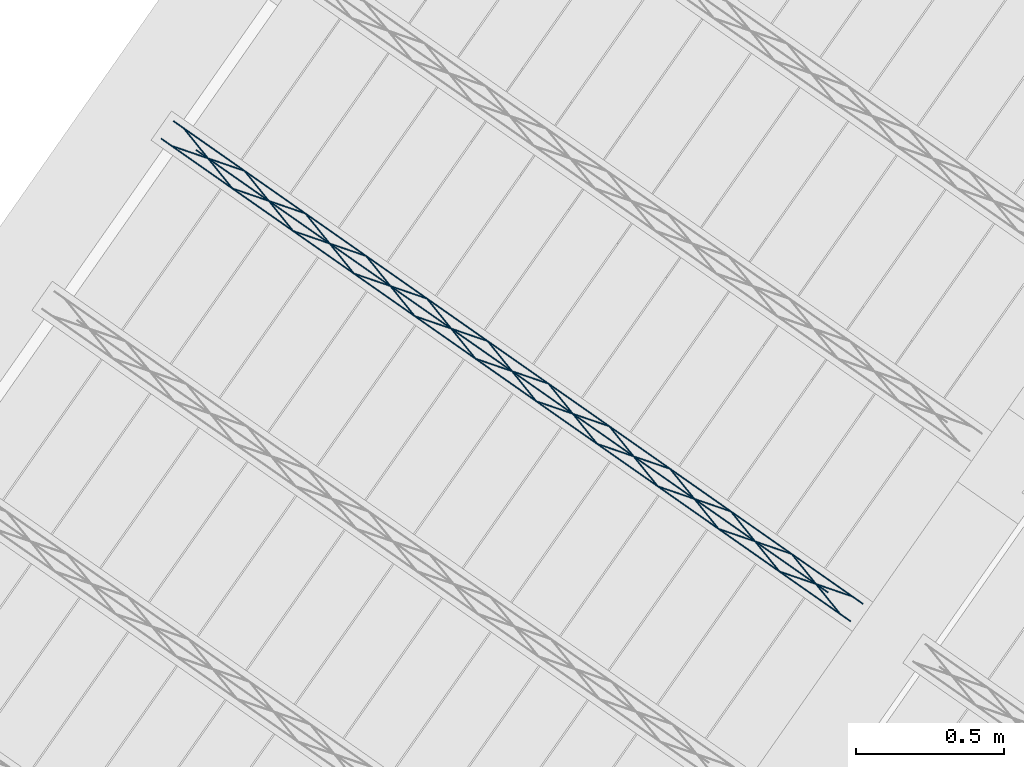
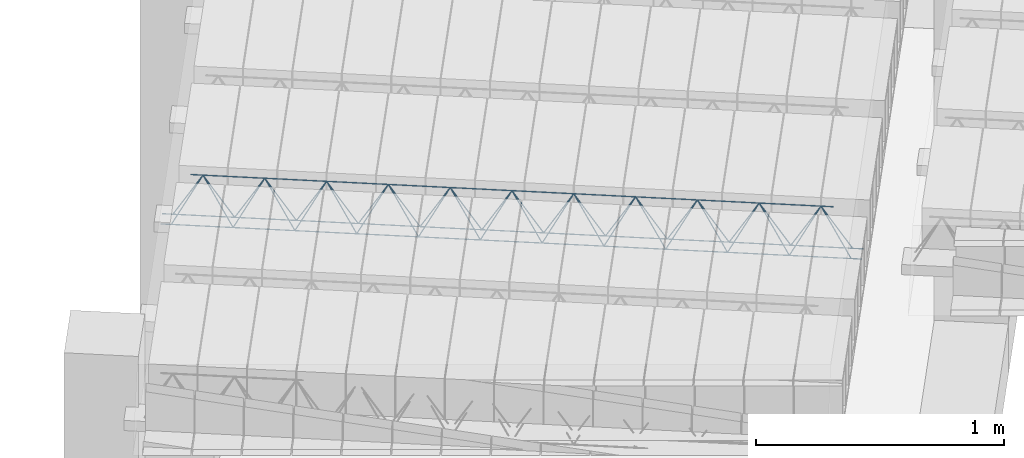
# One storey, part 20 of 80: 1 member.
"""IFC2X3 building model written with IfcOpenShell, lengths in metres."""

from ifc_helpers import new_model, entity, si_unit, converted_unit, derived_unit, direction, frame, origin, origin_2d_with_axis, place, context, subcontext, project, spatial, circle, extrude, type_object, element, save


model = new_model("IFC2X3")

# Units and contexts
model_context = context("Model", 3, precision=1e-05, world=origin(), true_north=direction((6.123031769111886e-17, 1.0)))
body_context = subcontext(model_context, "Body", "Model", "MODEL_VIEW")
ifc_project = project(units=[si_unit("LENGTHUNIT", "METRE"), si_unit("AREAUNIT", "SQUARE_METRE"), si_unit("VOLUMEUNIT", "CUBIC_METRE"), converted_unit("PLANEANGLEUNIT", "DEGREE", entity("IfcPlaneAngleMeasure", 0.017453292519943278), si_unit("PLANEANGLEUNIT", "RADIAN"), dimensions=[0, 0, 0, 0, 0, 0, 0]), si_unit("MASSUNIT", "GRAM", prefix="KILO"), derived_unit("MASSDENSITYUNIT", [(si_unit("MASSUNIT", "GRAM", prefix="KILO"), 1), (si_unit("LENGTHUNIT", "METRE"), -3)]), derived_unit("IONCONCENTRATIONUNIT", [(si_unit("MASSUNIT", "GRAM", prefix="KILO"), 1), (si_unit("LENGTHUNIT", "METRE"), -3)]), derived_unit("MOMENTOFINERTIAUNIT", [(si_unit("LENGTHUNIT", "METRE"), 4)]), si_unit("TIMEUNIT", "SECOND"), si_unit("FREQUENCYUNIT", "HERTZ"), si_unit("THERMODYNAMICTEMPERATUREUNIT", "DEGREE_CELSIUS"), derived_unit("THERMALTRANSMITTANCEUNIT", [(si_unit("MASSUNIT", "GRAM", prefix="KILO"), 1), (si_unit("THERMODYNAMICTEMPERATUREUNIT", "KELVIN"), -1), (si_unit("TIMEUNIT", "SECOND"), -3)]), derived_unit("THERMALCONDUCTANCEUNIT", [(si_unit("MASSUNIT", "GRAM", prefix="KILO"), 1), (si_unit("THERMODYNAMICTEMPERATUREUNIT", "KELVIN"), -1), (si_unit("TIMEUNIT", "SECOND"), -3), (si_unit("LENGTHUNIT", "METRE"), 1)]), derived_unit("VOLUMETRICFLOWRATEUNIT", [(si_unit("LENGTHUNIT", "METRE", prefix="DECI"), 3), (si_unit("TIMEUNIT", "SECOND"), -1)]), derived_unit("MASSFLOWRATEUNIT", [(si_unit("MASSUNIT", "GRAM", prefix="KILO"), 1), (si_unit("TIMEUNIT", "SECOND"), -1)]), derived_unit("ROTATIONALFREQUENCYUNIT", [(si_unit("TIMEUNIT", "SECOND"), -1)]), si_unit("ELECTRICCURRENTUNIT", "AMPERE"), si_unit("ELECTRICVOLTAGEUNIT", "VOLT"), si_unit("POWERUNIT", "WATT"), si_unit("FORCEUNIT", "NEWTON", prefix="KILO"), si_unit("ILLUMINANCEUNIT", "LUX"), si_unit("LUMINOUSFLUXUNIT", "LUMEN"), si_unit("LUMINOUSINTENSITYUNIT", "CANDELA"), si_unit("ENERGYUNIT", "JOULE"), derived_unit("USERDEFINED", [(si_unit("MASSUNIT", "GRAM", prefix="KILO"), -1), (si_unit("LENGTHUNIT", "METRE"), -2), (si_unit("TIMEUNIT", "SECOND"), 3), (si_unit("LUMINOUSFLUXUNIT", "LUMEN"), 1)]), derived_unit("USERDEFINED", [(si_unit("MASSUNIT", "GRAM", prefix="KILO"), 1), (si_unit("TIMEUNIT", "SECOND"), -3), (si_unit("LENGTHUNIT", "METRE"), 3), (si_unit("ELECTRICCURRENTUNIT", "AMPERE"), -2)]), derived_unit("SOUNDPOWERUNIT", [(si_unit("MASSUNIT", "GRAM", prefix="KILO"), 1), (si_unit("TIMEUNIT", "SECOND"), -3), (si_unit("LENGTHUNIT", "METRE"), 2)]), derived_unit("SOUNDPRESSUREUNIT", [(si_unit("MASSUNIT", "GRAM", prefix="KILO"), 1), (si_unit("LENGTHUNIT", "METRE"), -1), (si_unit("TIMEUNIT", "SECOND"), -2)]), derived_unit("LINEARVELOCITYUNIT", [(si_unit("LENGTHUNIT", "METRE"), 1), (si_unit("TIMEUNIT", "SECOND"), -1)]), si_unit("PRESSUREUNIT", "PASCAL"), derived_unit("USERDEFINED", [(si_unit("MASSUNIT", "GRAM", prefix="KILO"), 1), (si_unit("LENGTHUNIT", "METRE"), -2), (si_unit("TIMEUNIT", "SECOND"), -2)]), derived_unit("LINEARFORCEUNIT", [(si_unit("MASSUNIT", "GRAM", prefix="KILO"), 1), (si_unit("TIMEUNIT", "SECOND"), -2)]), derived_unit("PLANARFORCEUNIT", [(si_unit("MASSUNIT", "GRAM", prefix="KILO"), 1), (si_unit("LENGTHUNIT", "METRE"), -1), (si_unit("TIMEUNIT", "SECOND"), -2)]), derived_unit("SPECIFICHEATCAPACITYUNIT", [(si_unit("THERMODYNAMICTEMPERATUREUNIT", "KELVIN"), -1), (si_unit("LENGTHUNIT", "METRE"), 2), (si_unit("TIMEUNIT", "SECOND"), -2)]), derived_unit("HEATFLUXDENSITYUNIT", [(si_unit("MASSUNIT", "GRAM", prefix="KILO"), 1), (si_unit("TIMEUNIT", "SECOND"), -3)]), derived_unit("HEATINGVALUEUNIT", [(si_unit("LENGTHUNIT", "METRE"), 2), (si_unit("TIMEUNIT", "SECOND"), -2)]), derived_unit("VAPORPERMEABILITYUNIT", [(si_unit("LENGTHUNIT", "METRE"), -1), (si_unit("TIMEUNIT", "SECOND"), 1)]), derived_unit("DYNAMICVISCOSITYUNIT", [(si_unit("MASSUNIT", "GRAM", prefix="KILO"), 1), (si_unit("TIMEUNIT", "SECOND"), -1), (si_unit("LENGTHUNIT", "METRE"), -1)]), derived_unit("THERMALEXPANSIONCOEFFICIENTUNIT", [(si_unit("THERMODYNAMICTEMPERATUREUNIT", "KELVIN"), -1)]), derived_unit("MODULUSOFELASTICITYUNIT", [(si_unit("MASSUNIT", "GRAM", prefix="KILO"), 1), (si_unit("LENGTHUNIT", "METRE"), -1), (si_unit("TIMEUNIT", "SECOND"), -2)]), derived_unit("ISOTHERMALMOISTURECAPACITYUNIT", [(si_unit("MASSUNIT", "GRAM", prefix="KILO"), -1), (si_unit("LENGTHUNIT", "METRE"), 3)]), derived_unit("MOISTUREDIFFUSIVITYUNIT", [(si_unit("TIMEUNIT", "SECOND"), -1), (si_unit("LENGTHUNIT", "METRE"), 2)]), derived_unit("MASSPERLENGTHUNIT", [(si_unit("MASSUNIT", "GRAM", prefix="KILO"), 1), (si_unit("LENGTHUNIT", "METRE"), -1)]), derived_unit("THERMALRESISTANCEUNIT", [(si_unit("MASSUNIT", "GRAM", prefix="KILO"), -1), (si_unit("TIMEUNIT", "SECOND"), 3), (si_unit("THERMODYNAMICTEMPERATUREUNIT", "KELVIN"), 1)]), derived_unit("ACCELERATIONUNIT", [(si_unit("LENGTHUNIT", "METRE"), 1), (si_unit("TIMEUNIT", "SECOND"), -2)]), derived_unit("ANGULARVELOCITYUNIT", [(si_unit("TIMEUNIT", "SECOND"), -1), (si_unit("PLANEANGLEUNIT", "RADIAN"), 1)]), derived_unit("LINEARSTIFFNESSUNIT", [(si_unit("MASSUNIT", "GRAM", prefix="KILO"), 1), (si_unit("TIMEUNIT", "SECOND"), -2)]), derived_unit("WARPINGCONSTANTUNIT", [(si_unit("LENGTHUNIT", "METRE"), 6)]), derived_unit("LINEARMOMENTUNIT", [(si_unit("MASSUNIT", "GRAM", prefix="KILO"), 1), (si_unit("LENGTHUNIT", "METRE"), 1), (si_unit("TIMEUNIT", "SECOND"), -2)]), derived_unit("TORQUEUNIT", [(si_unit("MASSUNIT", "GRAM", prefix="KILO"), 1), (si_unit("LENGTHUNIT", "METRE"), 2), (si_unit("TIMEUNIT", "SECOND"), -2)])], contexts=[model_context])

# Site, building, storey
site_placement = place(None, origin())
site = spatial("IfcSite", under=ifc_project, at=site_placement, Name="Default", CompositionType="ELEMENT")
building_placement = place(site_placement, origin())
building = spatial("IfcBuilding", under=site, at=building_placement, CompositionType="ELEMENT")
storey_placement = place(building_placement, frame((0.0, 0.0, 95.94)))
storey = spatial("IfcBuildingStorey", under=building, at=storey_placement, Name="PB", CompositionType="ELEMENT", Elevation=95.94)

# Member
member_type = type_object("IfcMemberType", Name="Celosía (Vigueta 7 - Paño 2)", PredefinedType="NOTDEFINED")
member_placement = place(storey_placement, origin())
element("IfcMember", 1, at=member_placement, inside=storey, type_object=member_type, Name="Celosía (Vigueta 7 - Paño 2)", context=body_context, shape_type="SweptSolid", body=[
    extrude(circle(Radius=0.0025, at=origin_2d_with_axis()), frame((3.551522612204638, 4.489047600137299, 2.8449999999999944), z_axis=(-0.8191520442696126, 0.5735764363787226, 0.0), x_axis=(-0.5735764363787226, -0.8191520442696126, 0.0)), (0.0, 0.0, 1.0), 2.836567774),
    extrude(circle(Radius=0.0025, at=origin_2d_with_axis()), frame((1.3454835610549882, 6.077680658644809, 3.069999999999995), z_axis=(0.8191520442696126, -0.5735764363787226, 0.0), x_axis=(-0.5735764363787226, -0.8191520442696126, 0.0)), (0.0, 0.0, 1.0), 2.5999999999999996),
    extrude(circle(Radius=0.0025, at=origin_2d_with_axis()), frame((3.5160665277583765, 4.513874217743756, 2.8449999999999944), z_axis=(-0.3145304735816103, 0.389334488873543, 0.8657304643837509), x_axis=(-0.7778747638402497, -0.6284193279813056, 0.0)), (0.0, 0.0, 1.0), 0.2598961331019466),
    extrude(circle(Radius=0.0025, at=origin_2d_with_axis()), frame((3.311278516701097, 4.6572683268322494, 2.8449999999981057), z_axis=(0.47343050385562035, -0.1624017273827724, 0.8657304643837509), x_axis=(-0.3244721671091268, -0.9458952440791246, 0.0)), (0.0, 0.0, 1.0), 0.25989613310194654),
    extrude(circle(Radius=0.0025, at=origin_2d_with_axis()), frame((3.311278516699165, 4.657268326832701, 2.8449999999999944), z_axis=(-0.3145304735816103, 0.389334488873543, 0.8657304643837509), x_axis=(-0.7778747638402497, -0.6284193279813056, 0.0)), (0.0, 0.0, 1.0), 0.2598961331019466),
    extrude(circle(Radius=0.0025, at=origin_2d_with_axis()), frame((3.1064905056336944, 4.80066243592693, 2.8449999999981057), z_axis=(0.47343050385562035, -0.1624017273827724, 0.8657304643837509), x_axis=(-0.3244721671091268, -0.9458952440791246, 0.0)), (0.0, 0.0, 1.0), 0.25989613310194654),
    extrude(circle(Radius=0.0025, at=origin_2d_with_axis()), frame((3.106490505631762, 4.800662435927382, 2.8449999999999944), z_axis=(-0.3145304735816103, 0.389334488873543, 0.8657304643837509), x_axis=(-0.7778747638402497, -0.6284193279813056, 0.0)), (0.0, 0.0, 1.0), 0.2598961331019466),
    extrude(circle(Radius=0.0025, at=origin_2d_with_axis()), frame((2.9017024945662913, 4.944056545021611, 2.8449999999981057), z_axis=(0.47343050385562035, -0.1624017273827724, 0.8657304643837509), x_axis=(-0.3244721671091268, -0.9458952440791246, 0.0)), (0.0, 0.0, 1.0), 0.25989613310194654),
    extrude(circle(Radius=0.0025, at=origin_2d_with_axis()), frame((2.9017024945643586, 4.944056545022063, 2.8449999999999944), z_axis=(-0.3145304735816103, 0.389334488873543, 0.8657304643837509), x_axis=(-0.7778747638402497, -0.6284193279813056, 0.0)), (0.0, 0.0, 1.0), 0.2598961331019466),
    extrude(circle(Radius=0.0025, at=origin_2d_with_axis()), frame((2.696914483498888, 5.087450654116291, 2.8449999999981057), z_axis=(0.47343050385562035, -0.1624017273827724, 0.8657304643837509), x_axis=(-0.3244721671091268, -0.9458952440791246, 0.0)), (0.0, 0.0, 1.0), 0.25989613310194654),
    extrude(circle(Radius=0.0025, at=origin_2d_with_axis()), frame((2.69691448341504, 5.0874506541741, 2.8449999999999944), z_axis=(-0.3145304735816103, 0.389334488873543, 0.8657304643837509), x_axis=(-0.7778747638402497, -0.6284193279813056, 0.0)), (0.0, 0.0, 1.0), 0.2598961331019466),
    extrude(circle(Radius=0.0025, at=origin_2d_with_axis()), frame((2.4921264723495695, 5.230844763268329, 2.8449999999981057), z_axis=(0.47343050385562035, -0.1624017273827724, 0.8657304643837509), x_axis=(-0.3244721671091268, -0.9458952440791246, 0.0)), (0.0, 0.0, 1.0), 0.25989613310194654),
    extrude(circle(Radius=0.0025, at=origin_2d_with_axis()), frame((2.492126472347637, 5.230844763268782, 2.8449999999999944), z_axis=(-0.3145304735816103, 0.389334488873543, 0.8657304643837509), x_axis=(-0.7778747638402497, -0.6284193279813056, 0.0)), (0.0, 0.0, 1.0), 0.2598961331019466),
    extrude(circle(Radius=0.0025, at=origin_2d_with_axis()), frame((2.2873384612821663, 5.37423887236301, 2.8449999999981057), z_axis=(0.47343050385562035, -0.1624017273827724, 0.8657304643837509), x_axis=(-0.3244721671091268, -0.9458952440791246, 0.0)), (0.0, 0.0, 1.0), 0.25989613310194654),
    extrude(circle(Radius=0.0025, at=origin_2d_with_axis()), frame((2.2873384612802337, 5.374238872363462, 2.8449999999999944), z_axis=(-0.3145304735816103, 0.389334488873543, 0.8657304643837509), x_axis=(-0.7778747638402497, -0.6284193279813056, 0.0)), (0.0, 0.0, 1.0), 0.2598961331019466),
    extrude(circle(Radius=0.0025, at=origin_2d_with_axis()), frame((2.0825504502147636, 5.517632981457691, 2.8449999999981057), z_axis=(0.47343050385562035, -0.1624017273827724, 0.8657304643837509), x_axis=(-0.3244721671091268, -0.9458952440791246, 0.0)), (0.0, 0.0, 1.0), 0.25989613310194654),
    extrude(circle(Radius=0.0025, at=origin_2d_with_axis()), frame((2.082550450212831, 5.517632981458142, 2.8449999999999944), z_axis=(-0.3145304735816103, 0.389334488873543, 0.8657304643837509), x_axis=(-0.7778747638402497, -0.6284193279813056, 0.0)), (0.0, 0.0, 1.0), 0.2598961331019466),
    extrude(circle(Radius=0.0025, at=origin_2d_with_axis()), frame((1.8777624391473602, 5.661027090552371, 2.8449999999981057), z_axis=(0.47343050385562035, -0.1624017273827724, 0.8657304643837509), x_axis=(-0.3244721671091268, -0.9458952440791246, 0.0)), (0.0, 0.0, 1.0), 0.25989613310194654),
    extrude(circle(Radius=0.0025, at=origin_2d_with_axis()), frame((1.8777624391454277, 5.661027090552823, 2.8449999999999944), z_axis=(-0.3145304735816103, 0.389334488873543, 0.8657304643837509), x_axis=(-0.7778747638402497, -0.6284193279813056, 0.0)), (0.0, 0.0, 1.0), 0.2598961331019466),
    extrude(circle(Radius=0.0025, at=origin_2d_with_axis()), frame((1.6729744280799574, 5.804421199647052, 2.8449999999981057), z_axis=(0.47343050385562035, -0.1624017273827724, 0.8657304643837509), x_axis=(-0.3244721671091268, -0.9458952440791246, 0.0)), (0.0, 0.0, 1.0), 0.25989613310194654),
    extrude(circle(Radius=0.0025, at=origin_2d_with_axis()), frame((1.6729744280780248, 5.804421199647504, 2.8449999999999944), z_axis=(-0.3145304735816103, 0.389334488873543, 0.8657304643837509), x_axis=(-0.7778747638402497, -0.6284193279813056, 0.0)), (0.0, 0.0, 1.0), 0.2598961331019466),
    extrude(circle(Radius=0.0025, at=origin_2d_with_axis()), frame((1.4681864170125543, 5.947815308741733, 2.8449999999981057), z_axis=(0.47343050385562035, -0.1624017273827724, 0.8657304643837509), x_axis=(-0.3244721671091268, -0.9458952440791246, 0.0)), (0.0, 0.0, 1.0), 0.25989613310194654),
    extrude(circle(Radius=0.0025, at=origin_2d_with_axis()), frame((1.4681864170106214, 5.947815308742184, 2.8449999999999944), z_axis=(-0.3145304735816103, 0.389334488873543, 0.8657304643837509), x_axis=(-0.7778747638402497, -0.6284193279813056, 0.0)), (0.0, 0.0, 1.0), 0.2598961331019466),
    extrude(circle(Radius=0.0025, at=origin_2d_with_axis()), frame((1.2633984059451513, 6.091209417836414, 2.8449999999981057), z_axis=(0.47343050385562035, -0.1624017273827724, 0.8657304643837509), x_axis=(-0.3244721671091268, -0.9458952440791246, 0.0)), (0.0, 0.0, 1.0), 0.25989613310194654),
    extrude(circle(Radius=0.0025, at=origin_2d_with_axis()), frame((3.592820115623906, 4.548026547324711, 2.8449999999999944), z_axis=(-0.8191520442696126, 0.5735764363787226, 0.0), x_axis=(-0.5735764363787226, -0.8191520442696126, 0.0)), (0.0, 0.0, 1.0), 2.836567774),
    extrude(circle(Radius=0.0025, at=origin_2d_with_axis()), frame((3.5573640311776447, 4.572853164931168, 2.8449999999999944), z_axis=(-0.47343050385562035, 0.1624017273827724, 0.8657304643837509), x_axis=(-0.3244721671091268, -0.9458952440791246, 0.0)), (0.0, 0.0, 1.0), 0.25989613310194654),
    extrude(circle(Radius=0.0025, at=origin_2d_with_axis()), frame((3.352576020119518, 4.716247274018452, 2.8449999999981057), z_axis=(0.3145304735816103, -0.389334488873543, 0.8657304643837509), x_axis=(-0.7778747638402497, -0.6284193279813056, 0.0)), (0.0, 0.0, 1.0), 0.2598961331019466),
    extrude(circle(Radius=0.0025, at=origin_2d_with_axis()), frame((3.352576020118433, 4.716247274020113, 2.8449999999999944), z_axis=(-0.47343050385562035, 0.1624017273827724, 0.8657304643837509), x_axis=(-0.3244721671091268, -0.9458952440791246, 0.0)), (0.0, 0.0, 1.0), 0.25989613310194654),
    extrude(circle(Radius=0.0025, at=origin_2d_with_axis()), frame((3.1477880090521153, 4.859641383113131, 2.8449999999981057), z_axis=(0.3145304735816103, -0.389334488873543, 0.8657304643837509), x_axis=(-0.7778747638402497, -0.6284193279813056, 0.0)), (0.0, 0.0, 1.0), 0.2598961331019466),
    extrude(circle(Radius=0.0025, at=origin_2d_with_axis()), frame((3.14778800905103, 4.859641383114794, 2.8449999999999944), z_axis=(-0.47343050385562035, 0.1624017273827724, 0.8657304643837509), x_axis=(-0.3244721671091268, -0.9458952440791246, 0.0)), (0.0, 0.0, 1.0), 0.25989613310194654),
    extrude(circle(Radius=0.0025, at=origin_2d_with_axis()), frame((2.942999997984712, 5.003035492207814, 2.8449999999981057), z_axis=(0.3145304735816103, -0.389334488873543, 0.8657304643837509), x_axis=(-0.7778747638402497, -0.6284193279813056, 0.0)), (0.0, 0.0, 1.0), 0.2598961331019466),
    extrude(circle(Radius=0.0025, at=origin_2d_with_axis()), frame((2.9429999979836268, 5.003035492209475, 2.8449999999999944), z_axis=(-0.47343050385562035, 0.1624017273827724, 0.8657304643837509), x_axis=(-0.3244721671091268, -0.9458952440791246, 0.0)), (0.0, 0.0, 1.0), 0.25989613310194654),
    extrude(circle(Radius=0.0025, at=origin_2d_with_axis()), frame((2.738211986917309, 5.1464296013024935, 2.8449999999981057), z_axis=(0.3145304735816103, -0.389334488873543, 0.8657304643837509), x_axis=(-0.7778747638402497, -0.6284193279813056, 0.0)), (0.0, 0.0, 1.0), 0.2598961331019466),
    extrude(circle(Radius=0.0025, at=origin_2d_with_axis()), frame((2.738211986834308, 5.146429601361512, 2.8449999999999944), z_axis=(-0.47343050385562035, 0.1624017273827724, 0.8657304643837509), x_axis=(-0.3244721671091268, -0.9458952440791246, 0.0)), (0.0, 0.0, 1.0), 0.25989613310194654),
    extrude(circle(Radius=0.0025, at=origin_2d_with_axis()), frame((2.5334239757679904, 5.289823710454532, 2.8449999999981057), z_axis=(0.3145304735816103, -0.389334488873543, 0.8657304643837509), x_axis=(-0.7778747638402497, -0.6284193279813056, 0.0)), (0.0, 0.0, 1.0), 0.2598961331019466),
    extrude(circle(Radius=0.0025, at=origin_2d_with_axis()), frame((2.5334239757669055, 5.289823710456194, 2.8449999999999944), z_axis=(-0.47343050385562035, 0.1624017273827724, 0.8657304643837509), x_axis=(-0.3244721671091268, -0.9458952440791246, 0.0)), (0.0, 0.0, 1.0), 0.25989613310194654),
    extrude(circle(Radius=0.0025, at=origin_2d_with_axis()), frame((2.328635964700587, 5.4332178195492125, 2.8449999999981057), z_axis=(0.3145304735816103, -0.389334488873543, 0.8657304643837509), x_axis=(-0.7778747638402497, -0.6284193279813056, 0.0)), (0.0, 0.0, 1.0), 0.2598961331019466),
    extrude(circle(Radius=0.0025, at=origin_2d_with_axis()), frame((2.328635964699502, 5.433217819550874, 2.8449999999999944), z_axis=(-0.47343050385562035, 0.1624017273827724, 0.8657304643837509), x_axis=(-0.3244721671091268, -0.9458952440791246, 0.0)), (0.0, 0.0, 1.0), 0.25989613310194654),
    extrude(circle(Radius=0.0025, at=origin_2d_with_axis()), frame((2.123847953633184, 5.576611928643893, 2.8449999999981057), z_axis=(0.3145304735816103, -0.389334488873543, 0.8657304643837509), x_axis=(-0.7778747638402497, -0.6284193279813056, 0.0)), (0.0, 0.0, 1.0), 0.2598961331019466),
    extrude(circle(Radius=0.0025, at=origin_2d_with_axis()), frame((2.123847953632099, 5.576611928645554, 2.8449999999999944), z_axis=(-0.47343050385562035, 0.1624017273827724, 0.8657304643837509), x_axis=(-0.3244721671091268, -0.9458952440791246, 0.0)), (0.0, 0.0, 1.0), 0.25989613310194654),
    extrude(circle(Radius=0.0025, at=origin_2d_with_axis()), frame((1.9190599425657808, 5.720006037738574, 2.8449999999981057), z_axis=(0.3145304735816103, -0.389334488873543, 0.8657304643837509), x_axis=(-0.7778747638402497, -0.6284193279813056, 0.0)), (0.0, 0.0, 1.0), 0.2598961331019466),
    extrude(circle(Radius=0.0025, at=origin_2d_with_axis()), frame((1.9190599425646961, 5.7200060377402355, 2.8449999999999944), z_axis=(-0.47343050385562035, 0.1624017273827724, 0.8657304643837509), x_axis=(-0.3244721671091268, -0.9458952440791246, 0.0)), (0.0, 0.0, 1.0), 0.25989613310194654),
    extrude(circle(Radius=0.0025, at=origin_2d_with_axis()), frame((1.7142719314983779, 5.863400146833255, 2.8449999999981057), z_axis=(0.3145304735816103, -0.389334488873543, 0.8657304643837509), x_axis=(-0.7778747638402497, -0.6284193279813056, 0.0)), (0.0, 0.0, 1.0), 0.2598961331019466),
    extrude(circle(Radius=0.0025, at=origin_2d_with_axis()), frame((1.714271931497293, 5.863400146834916, 2.8449999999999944), z_axis=(-0.47343050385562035, 0.1624017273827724, 0.8657304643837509), x_axis=(-0.3244721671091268, -0.9458952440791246, 0.0)), (0.0, 0.0, 1.0), 0.25989613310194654),
    extrude(circle(Radius=0.0025, at=origin_2d_with_axis()), frame((1.5094839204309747, 6.006794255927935, 2.8449999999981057), z_axis=(0.3145304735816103, -0.389334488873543, 0.8657304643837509), x_axis=(-0.7778747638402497, -0.6284193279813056, 0.0)), (0.0, 0.0, 1.0), 0.2598961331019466),
    extrude(circle(Radius=0.0025, at=origin_2d_with_axis()), frame((1.5094839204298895, 6.006794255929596, 2.8449999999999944), z_axis=(-0.47343050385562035, 0.1624017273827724, 0.8657304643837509), x_axis=(-0.3244721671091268, -0.9458952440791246, 0.0)), (0.0, 0.0, 1.0), 0.25989613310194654),
    extrude(circle(Radius=0.0025, at=origin_2d_with_axis()), frame((1.304695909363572, 6.150188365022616, 2.8449999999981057), z_axis=(0.3145304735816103, -0.389334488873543, 0.8657304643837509), x_axis=(-0.7778747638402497, -0.6284193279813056, 0.0)), (0.0, 0.0, 1.0), 0.2598961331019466),
])

save(model, "model.ifc")
